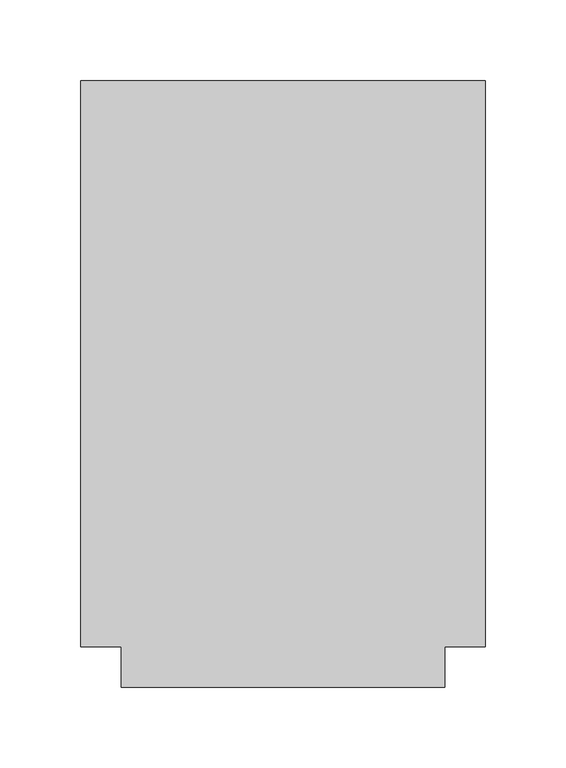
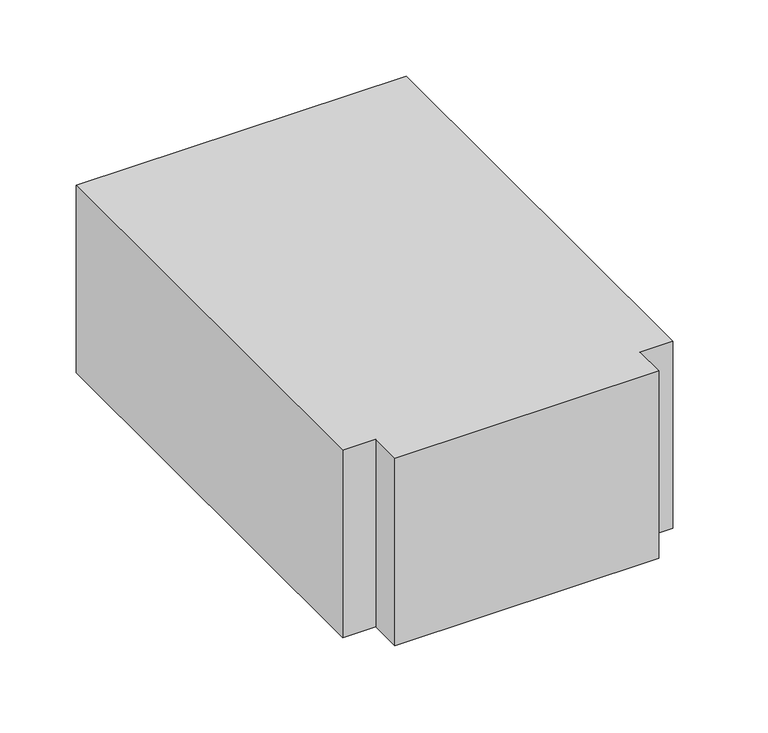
"""IFC4 building model written with IfcOpenShell, lengths in millimetres: duct fitting geometry, M_Te rectangular : Estándar."""

from ifc_helpers import new_model, si_unit, frame, origin, place, context, project, spatial, polyline, outline, extrude, source, transform, mapped, element, save


def duct_fitting_226e70d2(model_context):
    return source(origin(), model_context, "Body", "SweptSolid", [
        extrude(outline(polyline([(-125.0, -175.0), (-125.0, 175.0), (125.0, 175.0), (125.0, -175.0), (100.0, -175.0), (100.0, -200.0), (-100.0, -200.0), (-100.0, -175.0), (-125.0, -175.0)])), frame((0.0, 0.0, -75.0), z_axis=(0.0, 0.0, 1.0), x_axis=(1.0, 0.0, 0.0)), (0.0, 0.0, 1.0), 150.0),
    ])


if __name__ == "__main__":
    model = new_model("IFC4")
    model_context = context("Model", 3, world=origin())
    ifc_project = project(units=[si_unit("LENGTHUNIT", "METRE", prefix="MILLI")], contexts=[model_context])
    site = spatial("IfcSite", under=ifc_project)
    building = spatial("IfcBuilding", under=site)
    placement = place(None, origin())
    duct_fitting_shape = duct_fitting_226e70d2(model_context)
    element("IfcDuctFitting", 1, ObjectType="M_Te rectangular : Estándar", at=placement, inside=building, context=model_context, shape_type="MappedRepresentation", body=[
        mapped(duct_fitting_shape, transform((0.0, 0.0, 0.0), x_axis=(1.0, 0.0, 0.0), y_axis=(0.0, 1.0, 0.0), z_axis=(0.0, 0.0, 1.0))),
    ])
    save(model, "model.ifc")
